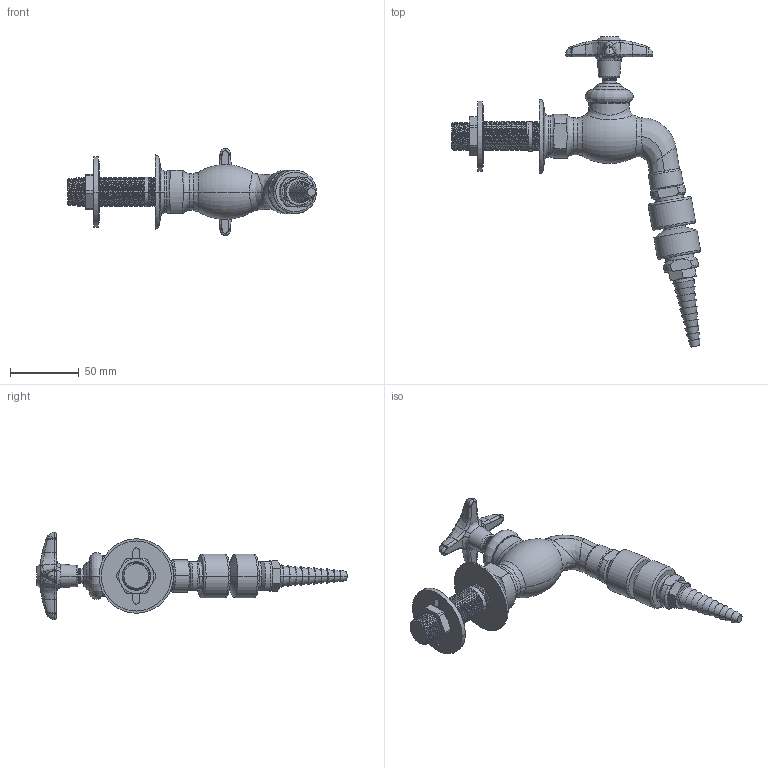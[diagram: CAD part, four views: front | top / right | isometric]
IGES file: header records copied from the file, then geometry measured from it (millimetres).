
Start section:  PTC IGES file: LWV4-C43.igs
Global section: file name: LWV4-C43.igs; native system: Creo Parametric by PTC Inc.; preprocessor: 2014500; author: usch_engrender; organization: Unknown; date: 20150915.132351; units: inch
Bounding box: 180.45 x 224.82 x 63.41 mm (x, y, z)
Volume: 193052.1 mm3; surface area: 42953.6 mm2
Topology: 1 solids, 2 shells, 475 faces, 1140 edges, 691 vertices
Faces by surface type: bspline 257, revolution 218
